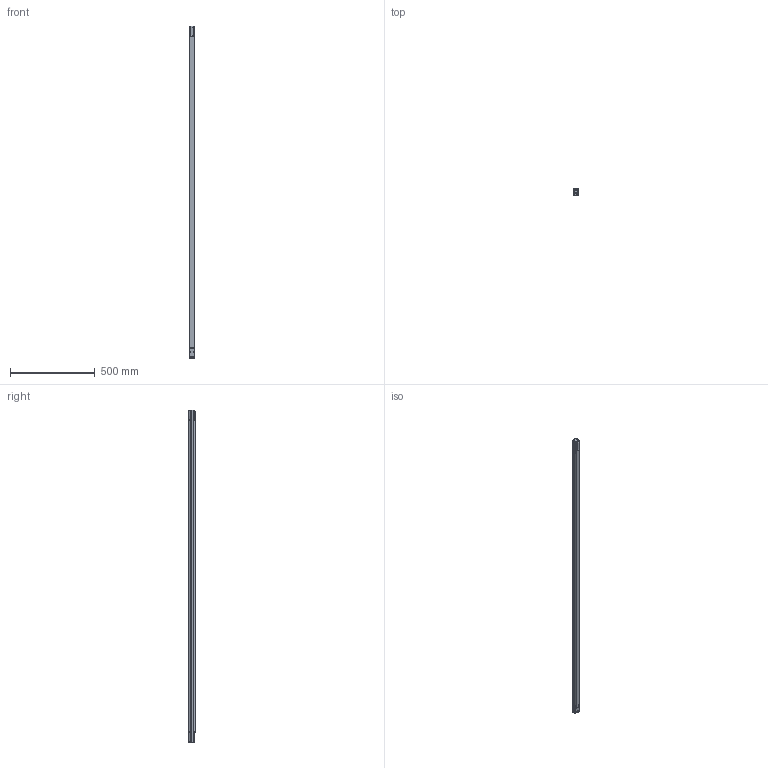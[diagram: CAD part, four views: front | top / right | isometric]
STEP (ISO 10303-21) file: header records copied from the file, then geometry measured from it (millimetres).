
FILE_DESCRIPTION(/* description */ (''),/* implementation_level */ '2;1');
FILE_NAME(/* name */ 'SH4 - 1950 mm DSD Barriera senza Smart Plug.stp',/* time_stamp */ '2022-12-02T18:38:18+01:00',/* author */ (''),/* organization */ (''),/* preprocessor_version */ 'ST-DEVELOPER v16.701',/* originating_system */ 'SIEMENS PLM Software NX 1946',/* authorisation */ '');
FILE_SCHEMA (('AP203_CONFIGURATION_CONTROLLED_3D_DESIGN_OF_MECHANICAL_PARTS_AND_ASSEMBLIES_MIM_LF { 1 0 10303 403 2 1 2}'));
Length unit declared in the file: millimetre
Products named in the file (1): MRos63D4F2E59x4a
Bounding box: 35.08 x 40 x 1959 mm (x, y, z)
Volume: 2311499.9 mm3; surface area: 445627.6 mm2
Topology: 6 solids, 11 shells, 891 faces, 2428 edges, 1549 vertices
Faces by surface type: plane 363, cylinder 315, bspline 92, cone 55, extrusion 24, sphere 22, torus 20
Full cylindrical faces by diameter (mm): 2.013 x4, 2.2 x4, 3 x4, 4.37 x4, 5 x8
Entity records: 34734 total; most frequent: CARTESIAN_POINT 13104, ORIENTED_EDGE 4576, DIRECTION 3865, EDGE_CURVE 2288, VERTEX_POINT 1515, AXIS2_PLACEMENT_3D 1345, VECTOR 1175, LINE 1151
